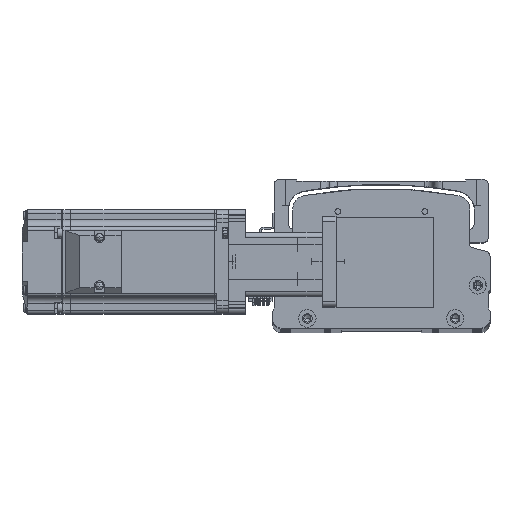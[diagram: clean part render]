
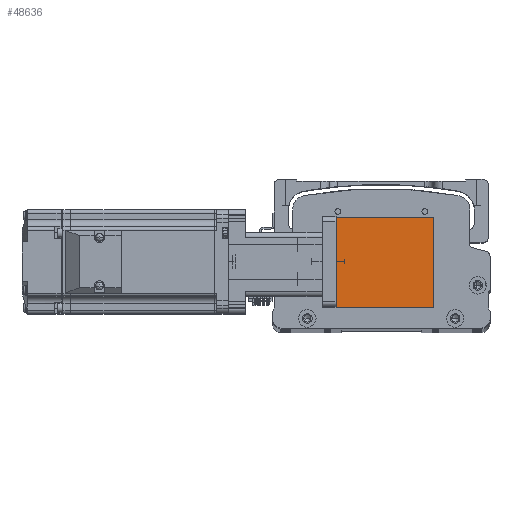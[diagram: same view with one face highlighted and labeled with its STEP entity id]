
A CAD part, top view. The second image highlights one B-rep face of the part: STEP entity #48636.
In plain terms, the highlighted planar face has unit normal (0, 0, 1) as drawn and (-1, 0, 0) by its records, which use the part's own axes.
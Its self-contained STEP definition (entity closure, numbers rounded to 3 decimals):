
#1554 = LINE ( 'NONE', #30223, #14622 ) ;
#4693 = CARTESIAN_POINT ( 'NONE',  ( -31.5, 26., 56. ) ) ;
#6010 = PLANE ( 'NONE',  #21957 ) ;
#10949 = DIRECTION ( 'NONE',  ( 0., 0., -1. ) ) ;
#11068 = CARTESIAN_POINT ( 'NONE',  ( -31.5, 26., 56. ) ) ;
#12913 = LINE ( 'NONE', #33511, #25973 ) ;
#14571 = DIRECTION ( 'NONE',  ( 0., 0., -1. ) ) ;
#14622 = VECTOR ( 'NONE', #59631, 1000. ) ;
#15874 = EDGE_CURVE ( 'NONE', #20180, #18311, #37883, .T. ) ;
#18311 = VERTEX_POINT ( 'NONE', #36039 ) ;
#18800 = ORIENTED_EDGE ( 'NONE', *, *, #23353, .F. ) ;
#20180 = VERTEX_POINT ( 'NONE', #11068 ) ;
#20590 = ORIENTED_EDGE ( 'NONE', *, *, #57795, .T. ) ;
#21899 = CARTESIAN_POINT ( 'NONE',  ( -31.5, -26., 0. ) ) ;
#21957 = AXIS2_PLACEMENT_3D ( 'NONE', #59895, #40364, #10949 ) ;
#23353 = EDGE_CURVE ( 'NONE', #61947, #62945, #12913, .T. ) ;
#25973 = VECTOR ( 'NONE', #62906, 1000. ) ;
#27198 = DIRECTION ( 'NONE',  ( 0., -1., 0. ) ) ;
#30223 = CARTESIAN_POINT ( 'NONE',  ( -31.5, -26., 56. ) ) ;
#31407 = FACE_OUTER_BOUND ( 'NONE', #41110, .T. ) ;
#33511 = CARTESIAN_POINT ( 'NONE',  ( -31.5, -26., 56. ) ) ;
#34166 = VECTOR ( 'NONE', #27198, 1000. ) ;
#36039 = CARTESIAN_POINT ( 'NONE',  ( -31.5, 26., 0. ) ) ;
#37883 = LINE ( 'NONE', #4693, #49397 ) ;
#40364 = DIRECTION ( 'NONE',  ( 1., 0., 0. ) ) ;
#41110 = EDGE_LOOP ( 'NONE', ( #20590, #18800, #41580, #53785 ) ) ;
#41580 = ORIENTED_EDGE ( 'NONE', *, *, #56001, .F. ) ;
#42012 = CARTESIAN_POINT ( 'NONE',  ( -31.5, -26., 0. ) ) ;
#48636 = ADVANCED_FACE ( 'NONE', ( #31407 ), #6010, .F. ) ;
#49397 = VECTOR ( 'NONE', #14571, 1000. ) ;
#52723 = CARTESIAN_POINT ( 'NONE',  ( -31.5, -26., 56. ) ) ;
#53785 = ORIENTED_EDGE ( 'NONE', *, *, #15874, .T. ) ;
#56001 = EDGE_CURVE ( 'NONE', #20180, #61947, #1554, .T. ) ;
#57795 = EDGE_CURVE ( 'NONE', #18311, #62945, #61789, .T. ) ;
#59631 = DIRECTION ( 'NONE',  ( 0., -1., 0. ) ) ;
#59895 = CARTESIAN_POINT ( 'NONE',  ( -31.5, -26., 56. ) ) ;
#61789 = LINE ( 'NONE', #42012, #34166 ) ;
#61947 = VERTEX_POINT ( 'NONE', #52723 ) ;
#62906 = DIRECTION ( 'NONE',  ( 0., 0., -1. ) ) ;
#62945 = VERTEX_POINT ( 'NONE', #21899 ) ;
